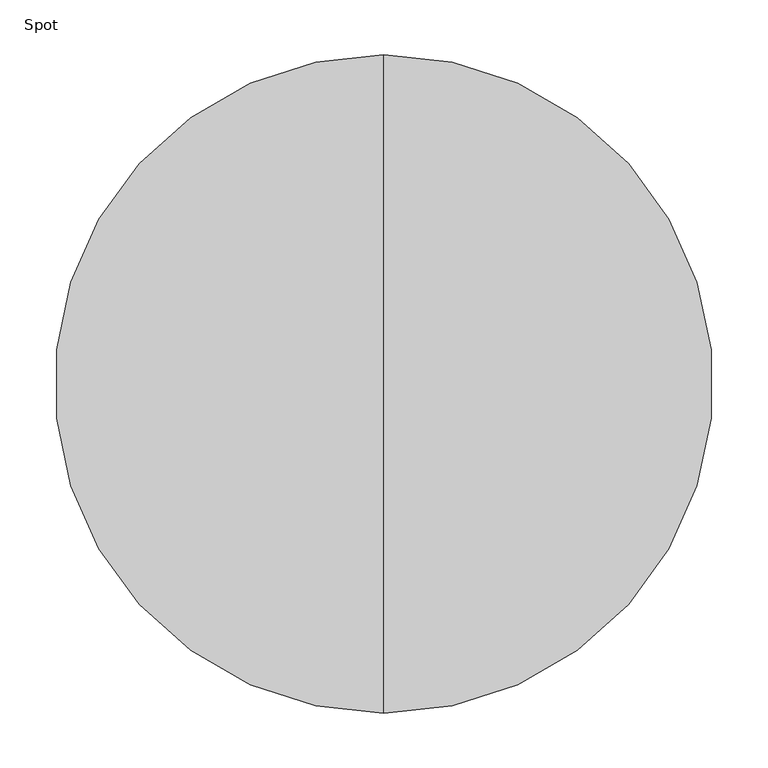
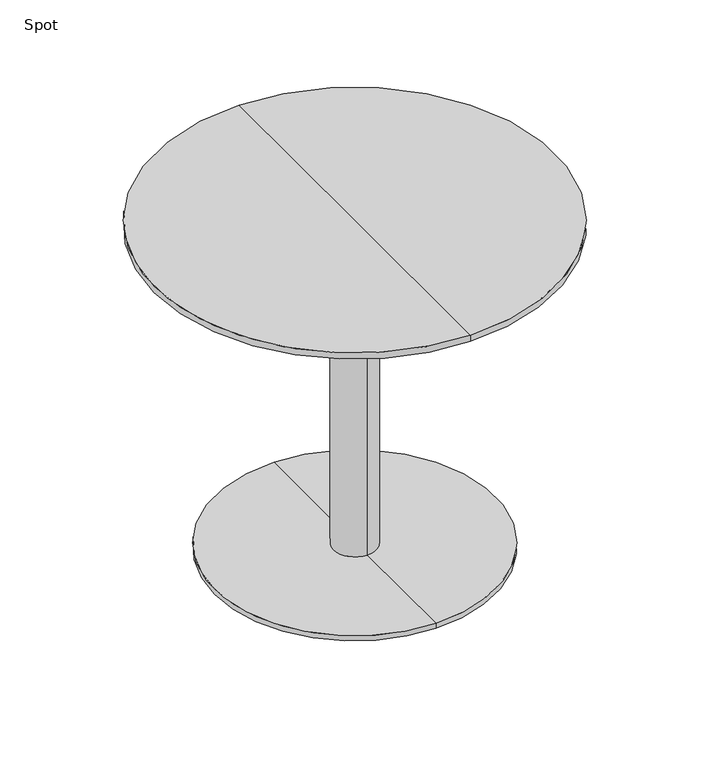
"""IFC4 building model written with IfcOpenShell, lengths in millimetres: furniture geometry, Spot : Bø60x52."""

from ifc_helpers import new_model, si_unit, frame, origin, place, context, project, spatial, polyline, circle_curve, source, transform, mapped, element, save
from ifc_brep_helpers import plane_surface, cylinder_surface, revolved_surface, advanced_brep


def spot_788d22cf(model_context):
    return source(origin(), model_context, "Body", "AdvancedBrep", [
        advanced_brep(
        [(0.0, -300.0, 520.0), (0.0, 300.0, 520.0), (0.0, 0.0, 520.0), (0.0, 300.0, 510.25), (0.0, -300.0, 510.25), (0.0, 0.0, 498.0), (0.0, -254.2823776, 498.0), (0.0, 254.2823776, 498.0)],
        [
            (0, 1, circle_curve(frame((0.0, 0.0, 520.0), z_axis=(0.0, 0.0, 1.0), x_axis=(0.0, -1.0, 0.0)), 300.0)),
            (1, 2),
            (2, 0),
            (3, 4, circle_curve(frame((0.0, 0.0, 510.25), z_axis=(0.0, 0.0, 1.0), x_axis=(0.0, -1.0, 0.0)), 300.0)),
            (4, 0),
            (0, 1, circle_curve(frame((0.0, 0.0, 520.0), z_axis=(0.0, 0.0, -1.0), x_axis=(0.0, -1.0, 0.0)), 300.0)),
            (1, 3),
            (5, 6),
            (6, 7, circle_curve(frame((0.0, 0.0, 498.0), z_axis=(0.0, 0.0, -1.0), x_axis=(0.0, -1.0, 0.0)), 254.2823776)),
            (7, 5),
            (7, 6, circle_curve(frame((0.0, 0.0, 498.0), z_axis=(0.0, 0.0, -1.0), x_axis=(0.0, -1.0, 0.0)), 254.2823776)),
            (4, 3, circle_curve(frame((0.0, 0.0, 510.25), z_axis=(0.0, 0.0, 1.0), x_axis=(0.0, -1.0, 0.0)), 300.0)),
            (6, 4),
            (3, 7),
        ],
        [
            plane_surface(frame((0.0, 0.0, 520.0), z_axis=(0.0, 0.0, 1.0), x_axis=(0.0, -1.0, 0.0))),
            cylinder_surface(frame((0.0, 0.0, 600.0), z_axis=(0.0, 0.0, -1.0), x_axis=(0.0, -1.0, 0.0)), 300.0),
            plane_surface(frame((0.0, 0.0, 498.0), z_axis=(0.0, 0.0, -1.0), x_axis=(0.0, -1.0, 0.0))),
            revolved_surface(polyline([(0.0, -300.0, 510.25), (0.0, -254.2823776, 498.0)]), (0.0, 0.0, 600.0), (0.0, 0.0, -1.0)),
        ],
        [
            (0, [[1, 2, 3]]),
            (1, [[4, 5, 6, 7]]),
            (2, [[8, 9, 10]]),
            (2, [[-10, 11, -8]]),
            (0, [[-6, -3, -2]]),
            (1, [[12, -7, -1, -5]]),
            (3, [[-9, 13, -4, 14]]),
            (3, [[-11, -14, -12, -13]]),
        ],
    ),
        advanced_brep(
        [(0.0, 32.0, 10.0), (0.0, -32.0, 10.0), (0.0, -32.0, 467.406916), (0.0, 32.0, 467.406916), (0.0, 210.0, 10.0), (0.0, -210.0, 10.0), (0.0, 210.0, 2.0), (0.0, -210.0, 2.0), (0.0, 0.0, 2.0), (0.0, 150.0, 498.0), (0.0, -150.0, 498.0), (0.0, 0.0, 498.0), (0.0, 150.0, 486.7213673), (0.0, -150.0, 486.7213673)],
        [
            (0, 1, circle_curve(frame((0.0, 0.0, 10.0), z_axis=(0.0, 0.0, 1.0), x_axis=(0.0, -1.0, 0.0)), 32.0)),
            (1, 2),
            (2, 3, circle_curve(frame((0.0, 0.0, 467.406916), z_axis=(0.0, 0.0, -1.0), x_axis=(0.0, -1.0, 0.0)), 32.0)),
            (3, 0),
            (1, 0, circle_curve(frame((0.0, 0.0, 10.0), z_axis=(0.0, 0.0, 1.0), x_axis=(0.0, -1.0, 0.0)), 32.0)),
            (3, 2, circle_curve(frame((0.0, 0.0, 467.406916), z_axis=(0.0, 0.0, -1.0), x_axis=(0.0, -1.0, 0.0)), 32.0)),
            (4, 5, circle_curve(frame((0.0, 0.0, 10.0), z_axis=(0.0, 0.0, 1.0), x_axis=(0.0, -1.0, 0.0)), 210.0)),
            (5, 1),
            (0, 4),
            (5, 4, circle_curve(frame((0.0, 0.0, 10.0), z_axis=(0.0, 0.0, 1.0), x_axis=(0.0, -1.0, 0.0)), 210.0)),
            (6, 7, circle_curve(frame((0.0, 0.0, 2.0), z_axis=(0.0, 0.0, 1.0), x_axis=(0.0, -1.0, 0.0)), 210.0)),
            (7, 5),
            (4, 6),
            (7, 6, circle_curve(frame((0.0, 0.0, 2.0), z_axis=(0.0, 0.0, 1.0), x_axis=(0.0, -1.0, 0.0)), 210.0)),
            (8, 7),
            (6, 8),
            (9, 10, circle_curve(frame((0.0, 0.0, 498.0), z_axis=(0.0, 0.0, 1.0), x_axis=(0.0, -1.0, 0.0)), 150.0)),
            (10, 11),
            (11, 9),
            (10, 9, circle_curve(frame((0.0, 0.0, 498.0), z_axis=(0.0, 0.0, 1.0), x_axis=(0.0, -1.0, 0.0)), 150.0)),
            (12, 13, circle_curve(frame((0.0, 0.0, 486.7213673), z_axis=(0.0, 0.0, 1.0), x_axis=(0.0, -1.0, 0.0)), 150.0)),
            (13, 10),
            (9, 12),
            (13, 12, circle_curve(frame((0.0, 0.0, 486.7213673), z_axis=(0.0, 0.0, 1.0), x_axis=(0.0, -1.0, 0.0)), 150.0)),
            (2, 13),
            (12, 3),
        ],
        [
            cylinder_surface(frame((0.0, 0.0, 860.0), z_axis=(0.0, 0.0, -1.0), x_axis=(0.0, -1.0, 0.0)), 32.0),
            plane_surface(frame((0.0, 0.0, 10.0), z_axis=(0.0, 0.0, 1.0), x_axis=(0.0, -1.0, 0.0))),
            cylinder_surface(frame((0.0, 0.0, 860.0), z_axis=(0.0, 0.0, -1.0), x_axis=(0.0, -1.0, 0.0)), 210.0),
            plane_surface(frame((0.0, 0.0, 2.0), z_axis=(0.0, 0.0, -1.0), x_axis=(0.0, -1.0, 0.0))),
            plane_surface(frame((0.0, 0.0, 498.0), z_axis=(0.0, 0.0, 1.0), x_axis=(0.0, -1.0, 0.0))),
            cylinder_surface(frame((0.0, 0.0, 860.0), z_axis=(0.0, 0.0, -1.0), x_axis=(0.0, -1.0, 0.0)), 150.0),
            revolved_surface(polyline([(0.0, -150.0, 486.7213673), (0.0, -32.0, 467.406916)]), (0.0, 0.0, 860.0), (0.0, 0.0, -1.0)),
        ],
        [
            (0, [[1, 2, 3, 4]]),
            (0, [[5, -4, 6, -2]]),
            (1, [[7, 8, -1, 9]]),
            (1, [[10, -9, -5, -8]]),
            (2, [[11, 12, -7, 13]]),
            (2, [[14, -13, -10, -12]]),
            (3, [[15, -11, 16]]),
            (3, [[-16, -14, -15]]),
            (4, [[17, 18, 19]]),
            (4, [[20, -19, -18]]),
            (5, [[21, 22, -17, 23]]),
            (5, [[24, -23, -20, -22]]),
            (6, [[-3, 25, -21, 26]]),
            (6, [[-6, -26, -24, -25]]),
        ],
    ),
    ])


if __name__ == "__main__":
    model = new_model("IFC4")
    model_context = context("Model", 3, world=origin())
    ifc_project = project(units=[si_unit("LENGTHUNIT", "METRE", prefix="MILLI")], contexts=[model_context])
    site = spatial("IfcSite", under=ifc_project)
    building = spatial("IfcBuilding", under=site)
    placement = place(None, origin())
    spot_shape = spot_788d22cf(model_context)
    element("IfcFurniture", 1, ObjectType="Spot : Bø60x52", at=placement, inside=building, context=model_context, shape_type="MappedRepresentation", body=[
        mapped(spot_shape, transform((0.0, 0.0, 0.0), x_axis=(1.0, 0.0, 0.0), y_axis=(0.0, 1.0, 0.0), z_axis=(0.0, 0.0, 1.0))),
    ])
    save(model, "model.ifc")
